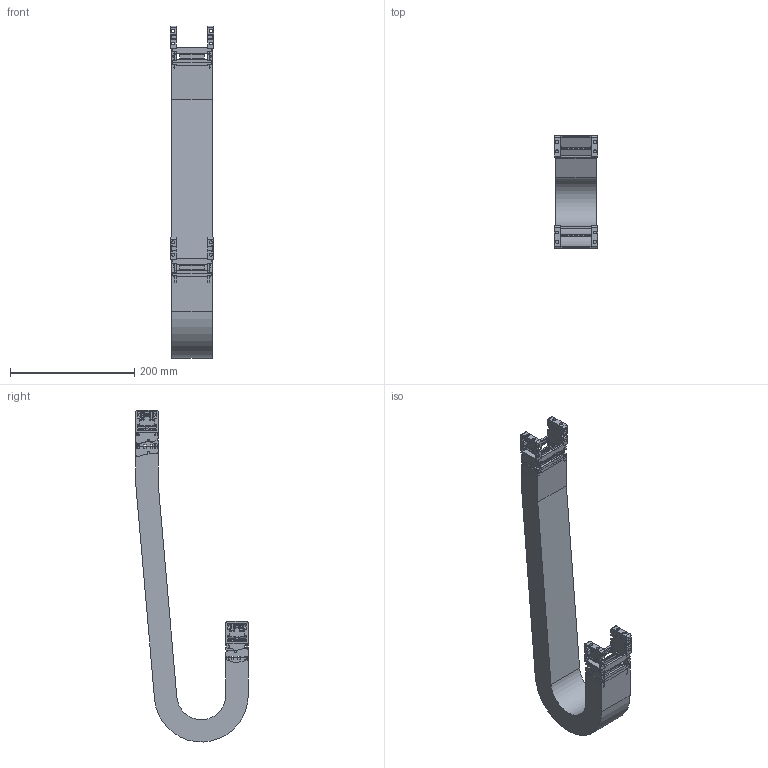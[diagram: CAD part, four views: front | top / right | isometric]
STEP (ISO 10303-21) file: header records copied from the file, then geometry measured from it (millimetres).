
FILE_DESCRIPTION((''),'2;1');
FILE_NAME('KST-25050-055_ASM','2017-12-05T',('KUNI004K'),(''),'PRO/ENGINEER BY PARAMETRIC TECHNOLOGY CORPORATION, 2015200','PRO/ENGINEER BY PARAMETRIC TECHNOLOGY CORPORATION, 2015200','');
FILE_SCHEMA(('AUTOMOTIVE_DESIGN { 1 0 10303 214 1 1 1 1 }'));
Length unit declared in the file: millimetre
Products named in the file (13): 25FBR; 25FBL; 25050C; KST25FBR_W050_ASM; 25055R; 25055L; 25050H; KST25050-055_1_ASM; KST25050_R55_BODY; 25MBR; 25MBL; KST25MBR_W050_ASM; KST-25050-055_ASM
Assembly tree (19 placements, depth 3):
  KST-25050-055_ASM
    KST25FBR_W050_ASM
      25FBR
      25FBL
      25050C  x2
    KST25050-055_1_ASM  x2
      25055R
      25055L
      25050C
      25050H
    KST25050_R55_BODY
    KST25MBR_W050_ASM
      25MBR
      25MBL
      25050C  x2
Bounding box: 70 x 181 x 534.23 mm (x, y, z)
Volume: 762814.9 mm3; surface area: 356437 mm2
Topology: 21 solids, 21 shells, 2564 faces, 7130 edges, 4624 vertices
Faces by surface type: plane 1330, cylinder 930, bspline 208, sphere 64, torus 32
Entity records: 69574 total; most frequent: CARTESIAN_POINT 15220, ORIENTED_EDGE 7396, DIRECTION 6504, PRESENTATION_STYLE_ASSIGNMENT 4998, STYLED_ITEM 4998, CURVE_STYLE 3698, EDGE_CURVE 3698, VECTOR 2454
